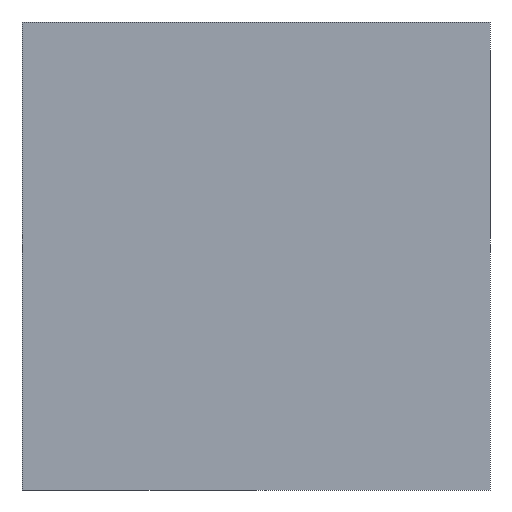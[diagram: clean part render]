
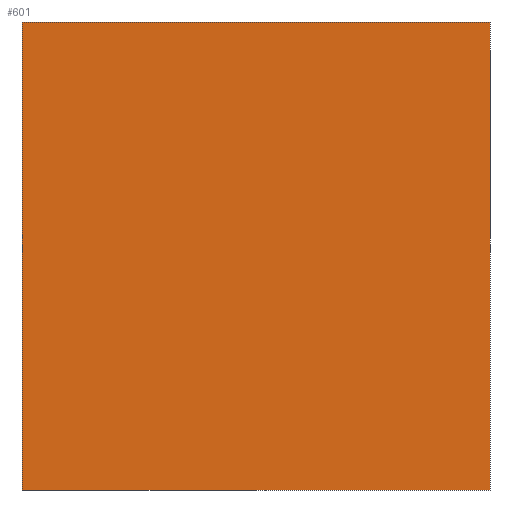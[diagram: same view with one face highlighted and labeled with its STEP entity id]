
A CAD part, left-side view. The second image highlights one B-rep face of the part: STEP entity #601.
In plain terms, the highlighted planar face has unit normal (-1, 0, 0).
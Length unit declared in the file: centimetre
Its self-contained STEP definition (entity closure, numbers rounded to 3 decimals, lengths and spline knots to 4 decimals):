
#14 = ORIENTED_EDGE ( 'NONE', *, *, #192, .T. ) ;
#33 = VERTEX_POINT ( 'NONE', #641 ) ;
#40 = LINE ( 'NONE', #457, #46 ) ;
#46 = VECTOR ( 'NONE', #665, 100. ) ;
#47 = VECTOR ( 'NONE', #481, 100. ) ;
#58 = CARTESIAN_POINT ( 'NONE',  ( 0., 0., 0. ) ) ;
#89 = LINE ( 'NONE', #612, #577 ) ;
#100 = ORIENTED_EDGE ( 'NONE', *, *, #427, .F. ) ;
#132 = LINE ( 'NONE', #553, #469 ) ;
#168 = EDGE_LOOP ( 'NONE', ( #258, #325, #100, #14 ) ) ;
#173 = EDGE_CURVE ( 'NONE', #33, #598, #132, .T. ) ;
#192 = EDGE_CURVE ( 'NONE', #656, #608, #40, .T. ) ;
#196 = DIRECTION ( 'NONE',  ( 0., 0., -1. ) ) ;
#247 = EDGE_CURVE ( 'NONE', #608, #598, #89, .T. ) ;
#258 = ORIENTED_EDGE ( 'NONE', *, *, #247, .T. ) ;
#268 = CARTESIAN_POINT ( 'NONE',  ( 0., 1000., 1000. ) ) ;
#321 = LINE ( 'NONE', #268, #47 ) ;
#325 = ORIENTED_EDGE ( 'NONE', *, *, #173, .F. ) ;
#331 = DIRECTION ( 'NONE',  ( 0., 0., -1. ) ) ;
#367 = FACE_OUTER_BOUND ( 'NONE', #168, .T. ) ;
#417 = PLANE ( 'NONE',  #451 ) ;
#420 = CARTESIAN_POINT ( 'NONE',  ( 0., 1000., 1000. ) ) ;
#427 = EDGE_CURVE ( 'NONE', #656, #33, #321, .T. ) ;
#434 = DIRECTION ( 'NONE',  ( 1., 0., 0. ) ) ;
#451 = AXIS2_PLACEMENT_3D ( 'NONE', #420, #434, #331 ) ;
#457 = CARTESIAN_POINT ( 'NONE',  ( 0., 1000., 1000. ) ) ;
#469 = VECTOR ( 'NONE', #196, 100. ) ;
#481 = DIRECTION ( 'NONE',  ( 0., -1., 0. ) ) ;
#518 = DIRECTION ( 'NONE',  ( 0., -1., 0. ) ) ;
#531 = CARTESIAN_POINT ( 'NONE',  ( 0., 1000., 1000. ) ) ;
#553 = CARTESIAN_POINT ( 'NONE',  ( 0., 0., 1000. ) ) ;
#570 = CARTESIAN_POINT ( 'NONE',  ( 0., 1000., 0. ) ) ;
#577 = VECTOR ( 'NONE', #518, 100. ) ;
#598 = VERTEX_POINT ( 'NONE', #58 ) ;
#601 = ADVANCED_FACE ( 'NONE', ( #367 ), #417, .F. ) ;
#608 = VERTEX_POINT ( 'NONE', #570 ) ;
#612 = CARTESIAN_POINT ( 'NONE',  ( 0., 1000., 0. ) ) ;
#641 = CARTESIAN_POINT ( 'NONE',  ( 0., 0., 1000. ) ) ;
#656 = VERTEX_POINT ( 'NONE', #531 ) ;
#665 = DIRECTION ( 'NONE',  ( 0., 0., -1. ) ) ;
